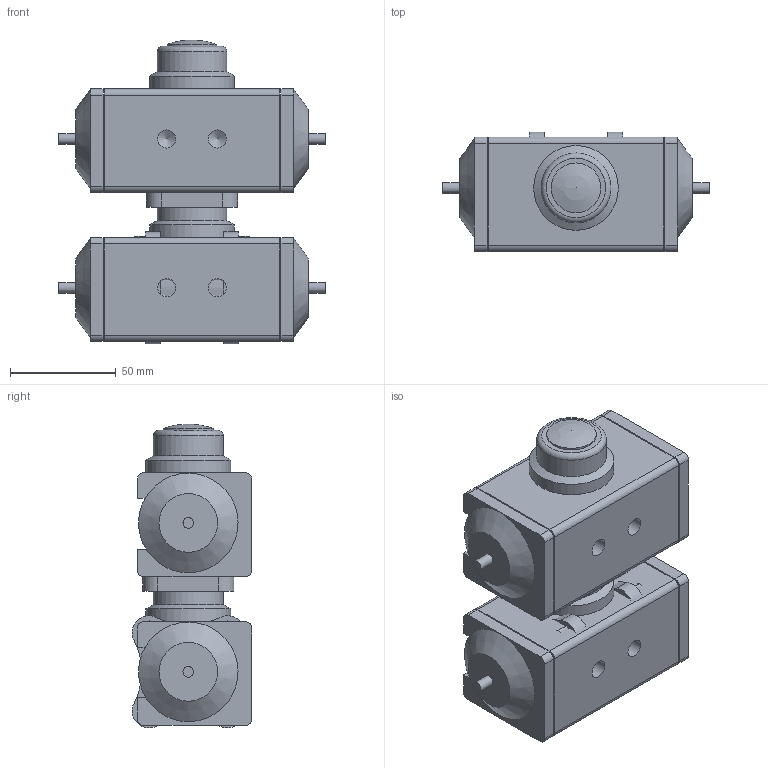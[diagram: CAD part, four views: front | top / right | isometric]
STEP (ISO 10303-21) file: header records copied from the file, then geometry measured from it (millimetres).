
FILE_DESCRIPTION( ( 'Unknown' ), '1' );
FILE_NAME( 'W:/ECCUA/ROOTSI BPS 3D vidinad/Kuulkraanid/Roostevaba kuulkraanid/Ball valve BPS 2420/Ball valve with pneumatic actuator BPS/STEP format/BPS 2420020P ball valve DN20.stp', 'Unknown', ( 'Unknown' ), ( 'Unknown' ), 'PSStep 10.1', 'Unknown', ' ' );
FILE_SCHEMA( ( 'AUTOMOTIVE_DESIGN { 1 0 10303 214 1 1 1 1 }' ) );
Length unit declared in the file: millimetre
Products named in the file (3): Assem1; BPS 2420020 ball valve DN20; BPS 8300035DA-SR pneumatic actuator
Bounding box: 126 x 56.5 x 143.5 mm (x, y, z)
Volume: 765069.9 mm3; surface area: 145023 mm2
Topology: 4 solids, 4 shells, 746 faces, 1886 edges, 1252 vertices
Faces by surface type: plane 436, cylinder 202, bspline 76, cone 28, torus 2, sphere 2
Full cylindrical faces by diameter (mm): 4.134 x8, 4.917 x8, 5 x8, 6 x24, 8.566 x4, 20 x2, 21 x2, 23.5 x2, 24.117 x4, 31 x2, 33 x2, 40 x2, 42 x2
Entity records: 17672 total; most frequent: CARTESIAN_POINT 6543, ORIENTED_EDGE 1698, DIRECTION 1420, EDGE_CURVE 849, VERTEX_POINT 601, AXIS2_PLACEMENT_3D 513, EDGE_LOOP 502, FACE_OUTER_BOUND 417
